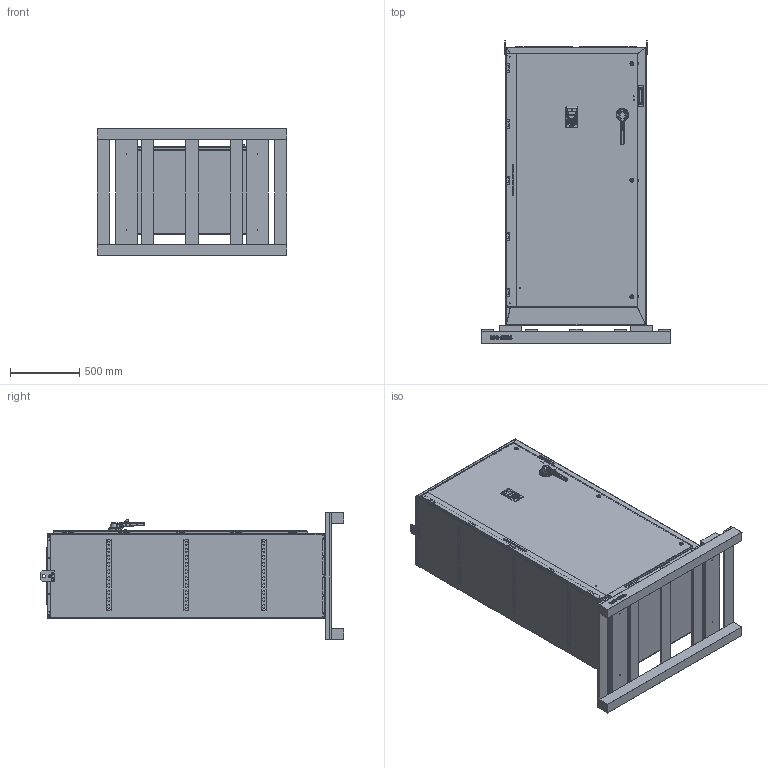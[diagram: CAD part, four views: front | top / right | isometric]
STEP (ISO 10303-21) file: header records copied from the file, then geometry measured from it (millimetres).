
FILE_DESCRIPTION (( 'STEP AP203' ), '1' );
FILE_NAME ('GETR0400A64AR1XKX1U0-M4.STEP', '2019-07-19T14:09:21', ( 'root' ), ( '' ), 'SwSTEP 2.0', 'SolidWorks 2018', '' );
FILE_SCHEMA (( 'CONFIG_CONTROL_DESIGN' ));
Products named in the file (1): GETR0400A64AR1XKX1U0-M4
Bounding box: 1371.6 x 2190.74 x 914.4 mm (x, y, z)
Surface area: 20011041.3 mm2 (no closed solid volume)
Topology: 0 solids, 161 shells, 4304 faces, 13522 edges, 9527 vertices
Faces by surface type: plane 1796, bspline 1656, cylinder 697, cone 72, sphere 48, torus 35
Full cylindrical faces by diameter (mm): 1.839 x2, 2.286 x6, 3.251 x66, 4 x6, 4.826 x4, 4.877 x2, 5 x12, 5.527 x2, 5.944 x3, 6.35 x40, 6.401 x4, 7.061 x2, 7.137 x28, 7.276 x1, 7.544 x2, 8.56 x2, 8.763 x1, 8.814 x16, 9.525 x16, 9.754 x3, 11.113 x2, 12.319 x16, 12.7 x4, 12.827 x3, 15.875 x3, 16.256 x3, 25.4 x2, 27.686 x2, 27.762 x3
Entity records: 191082 total; most frequent: CARTESIAN_POINT 90531, ORIENTED_EDGE 23681, DIRECTION 14242, EDGE_CURVE 13033, VERTEX_POINT 9466, LINE 5738, VECTOR 5738, EDGE_LOOP 5479
